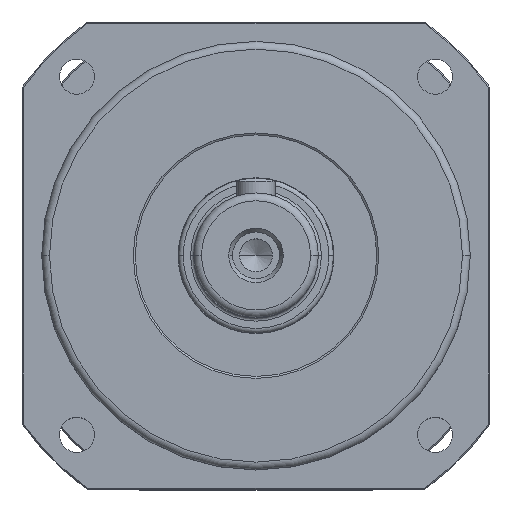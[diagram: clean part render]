
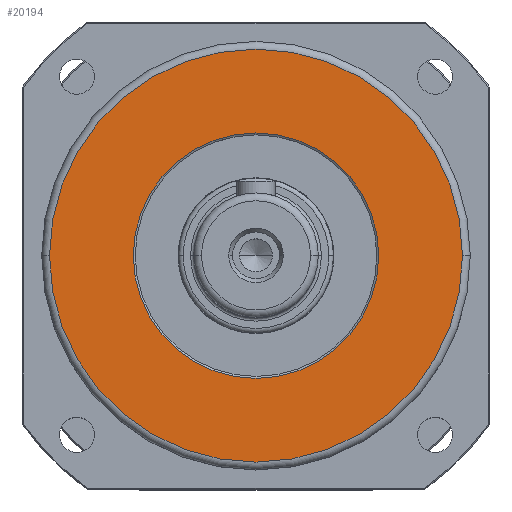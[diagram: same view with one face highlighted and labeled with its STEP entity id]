
A CAD part, top view. The second image highlights one B-rep face of the part: STEP entity #20194.
In plain terms, the highlighted planar face has unit normal (0, 0, 1).
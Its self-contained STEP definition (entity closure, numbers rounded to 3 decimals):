
#120 = CIRCLE ( 'NONE', #124, 31.5 ) ;
#124 = AXIS2_PLACEMENT_3D ( 'NONE', #201, #202, #203 ) ;
#125 = CIRCLE ( 'NONE', #126, 53. ) ;
#126 = AXIS2_PLACEMENT_3D ( 'NONE', #204, #205, #206 ) ;
#201 = CARTESIAN_POINT ( 'NONE',  ( 0., 0., 12. ) ) ;
#202 = DIRECTION ( 'NONE',  ( 0., 0., -1. ) ) ;
#203 = DIRECTION ( 'NONE',  ( 1., 0., 0. ) ) ;
#204 = CARTESIAN_POINT ( 'NONE',  ( 0., 0., 12. ) ) ;
#205 = DIRECTION ( 'NONE',  ( 0., 0., 1. ) ) ;
#206 = DIRECTION ( 'NONE',  ( 1., 0., 0. ) ) ;
#2060 = CARTESIAN_POINT ( 'NONE',  ( 53., 0., 12. ) ) ;
#2061 = CARTESIAN_POINT ( 'NONE',  ( -53., 0., 12. ) ) ;
#2064 = CARTESIAN_POINT ( 'NONE',  ( 31.5, 0., 12. ) ) ;
#2065 = CARTESIAN_POINT ( 'NONE',  ( -31.5, 0., 12. ) ) ;
#5619 = PLANE ( 'NONE',  #5634 ) ;
#5620 = CARTESIAN_POINT ( 'NONE',  ( 0., 0., 12. ) ) ;
#5621 = DIRECTION ( 'NONE',  ( 0., 0., 1. ) ) ;
#5622 = DIRECTION ( 'NONE',  ( 1., 0., 0. ) ) ;
#5634 = AXIS2_PLACEMENT_3D ( 'NONE', #5620, #5621, #5622 ) ;
#6678 = ORIENTED_EDGE ( 'NONE', *, *, #10990, .T. ) ;
#6680 = ORIENTED_EDGE ( 'NONE', *, *, #9856, .T. ) ;
#6681 = ORIENTED_EDGE ( 'NONE', *, *, #9857, .T. ) ;
#6682 = ORIENTED_EDGE ( 'NONE', *, *, #13817, .T. ) ;
#8273 = EDGE_LOOP ( 'NONE', ( #6678, #6680 ) ) ;
#8274 = EDGE_LOOP ( 'NONE', ( #6682, #6681 ) ) ;
#8539 = VERTEX_POINT ( 'NONE', #2060 ) ;
#8540 = VERTEX_POINT ( 'NONE', #2061 ) ;
#8543 = VERTEX_POINT ( 'NONE', #2064 ) ;
#8544 = VERTEX_POINT ( 'NONE', #2065 ) ;
#9856 = EDGE_CURVE ( 'NONE', #8544, #8543, #120, .T. ) ;
#9857 = EDGE_CURVE ( 'NONE', #8540, #8539, #125, .T. ) ;
#10990 = EDGE_CURVE ( 'NONE', #8543, #8544, #15235, .T. ) ;
#12158 = CIRCLE ( 'NONE', #12159, 53. ) ;
#12159 = AXIS2_PLACEMENT_3D ( 'NONE', #12177, #12178, #12179 ) ;
#12177 = CARTESIAN_POINT ( 'NONE',  ( 0., 0., 12. ) ) ;
#12178 = DIRECTION ( 'NONE',  ( 0., 0., 1. ) ) ;
#12179 = DIRECTION ( 'NONE',  ( 1., 0., 0. ) ) ;
#13817 = EDGE_CURVE ( 'NONE', #8539, #8540, #12158, .T. ) ;
#15235 = CIRCLE ( 'NONE', #15236, 31.5 ) ;
#15236 = AXIS2_PLACEMENT_3D ( 'NONE', #15329, #15330, #15331 ) ;
#15329 = CARTESIAN_POINT ( 'NONE',  ( 0., 0., 12. ) ) ;
#15330 = DIRECTION ( 'NONE',  ( 0., 0., -1. ) ) ;
#15331 = DIRECTION ( 'NONE',  ( 1., 0., 0. ) ) ;
#16989 = FACE_BOUND ( 'NONE', #8273, .T. ) ;
#16990 = FACE_OUTER_BOUND ( 'NONE', #8274, .T. ) ;
#20194 = ADVANCED_FACE ( 'NONE', ( #16989, #16990 ), #5619, .T. ) ;
